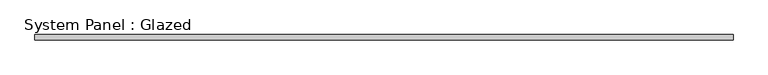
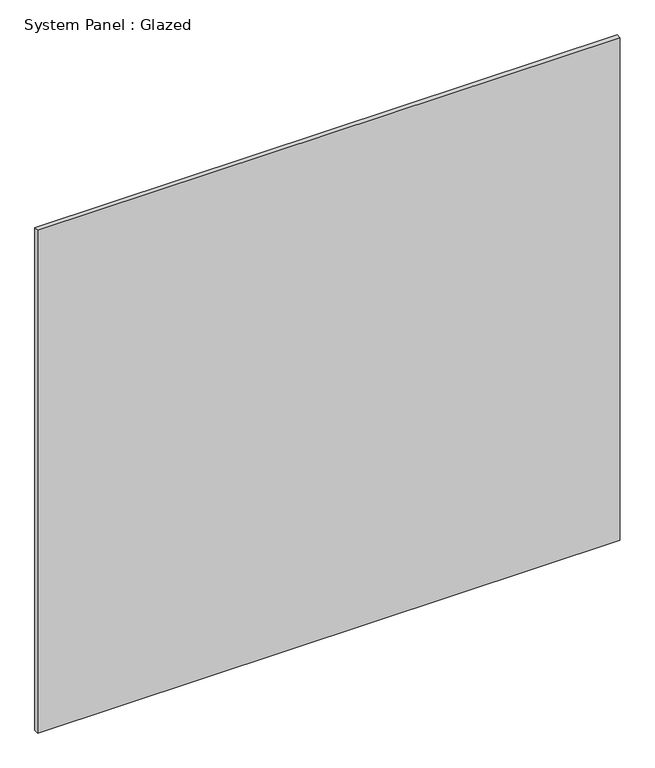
"""IFC4 building model written with IfcOpenShell, lengths in millimetres: plate geometry, System Panel : Glazed."""

import ifcopenshell
import ifcopenshell.guid

model = None  # the IFC model being written
_history = None  # IfcOwnerHistory: only IFC2X3 demands one
_inside = {}  # id of a spatial element -> (the spatial element, [elements in it])
_under = {}  # id of a project, library or spatial element -> (it, [spatial elements below it])
_declared = {}  # id of a project -> (the project, [libraries it declares])
_typed = {}  # id of a type object -> (the type object, [elements of that type])
_made_of = {}  # id of a material, layer set ... -> (it, [elements and type objects made of it])


def new_model(schema):
    """Start an empty IFC model of exactly this schema.

    Asked for "IFC4X3", IfcOpenShell would pick the latest addendum, in which some entities
    have other attributes; the version numbers below select the first issue.
    IFC2X3 requires an IfcOwnerHistory on every rooted entity: one is made here for all.
    """
    global model, _history
    if schema == "IFC4X3":
        model = ifcopenshell.file(schema_version=(4, 3, 0, 0))
    else:
        model = ifcopenshell.file(schema=schema)
    _inside.clear()
    _under.clear()
    _declared.clear()
    _typed.clear()
    _made_of.clear()
    _history = None
    if model.schema == "IFC2X3":
        org = make("IfcOrganization", Name="unknown")
        user = make(
            "IfcPersonAndOrganization",
            ThePerson=make("IfcPerson", FamilyName="unknown"),
            TheOrganization=org,
        )
        app = make(
            "IfcApplication",
            ApplicationDeveloper=org,
            Version="unknown",
            ApplicationFullName="unknown",
            ApplicationIdentifier="unknown",
        )
        _history = make(
            "IfcOwnerHistory",
            OwningUser=user,
            OwningApplication=app,
            ChangeAction="ADDED",
            CreationDate=0,
        )
    return model


def make(cls, **values):
    """One entity of the class cls with the attributes given. An attribute that is None is left unset."""
    return model.create_entity(
        cls, **{name: value for name, value in values.items() if value is not None}
    )


def rooted(cls, **values):
    """An entity with a GlobalId (a new one), such as an element, a storey or a relation."""
    return make(cls, GlobalId=ifcopenshell.guid.new(), OwnerHistory=_history, **values)


def si_unit(unit_type, name, prefix=None):
    """IfcSIUnit, for example si_unit("LENGTHUNIT", "METRE", prefix="MILLI")."""
    return make("IfcSIUnit", UnitType=unit_type, Prefix=prefix, Name=name)


def assignment(units):
    """IfcUnitAssignment: the units of a project."""
    return None if units is None else make("IfcUnitAssignment", Units=units)


def point(xyz):
    """IfcCartesianPoint."""
    return None if xyz is None else make("IfcCartesianPoint", Coordinates=xyz)


def direction(xyz):
    """IfcDirection."""
    return None if xyz is None else make("IfcDirection", DirectionRatios=xyz)


def frame(location, z_axis=None, x_axis=None):
    """IfcAxis2Placement3D, a coordinate frame: its origin and axes. An axis left out is left unset."""
    return make(
        "IfcAxis2Placement3D",
        Location=point(location),
        Axis=direction(z_axis),
        RefDirection=direction(x_axis),
    )


def origin():
    """The frame at (0, 0, 0) with its axes left unset."""
    return frame((0.0, 0.0, 0.0))


def origin_with_axes():
    """The frame at (0, 0, 0) with the z axis (0, 0, 1) and the x axis (1, 0, 0) written out."""
    return frame((0.0, 0.0, 0.0), z_axis=(0.0, 0.0, 1.0), x_axis=(1.0, 0.0, 0.0))


def place(relative_to, where):
    """IfcLocalPlacement: puts the frame where relative to a parent placement (None: the world)."""
    return make(
        "IfcLocalPlacement", PlacementRelTo=relative_to, RelativePlacement=where
    )


def context(
    kind, dimensions, precision=None, world=None, true_north=None, identifier=None
):
    """IfcGeometricRepresentationContext, for example the 3D "Model" context."""
    return make(
        "IfcGeometricRepresentationContext",
        ContextIdentifier=identifier,
        ContextType=kind,
        CoordinateSpaceDimension=dimensions,
        Precision=precision,
        WorldCoordinateSystem=world,
        TrueNorth=true_north,
    )


def project(units=None, contexts=None):
    """IfcProject with its units and contexts."""
    return rooted(
        "IfcProject",
        Name="project",
        RepresentationContexts=contexts,
        UnitsInContext=assignment(units),
    )


def spatial(cls, under=None, at=None, **own):
    """A site, building, storey or space (cls), placed at a placement, below another one or the project."""
    s = rooted(cls, ObjectPlacement=at, **own)
    if under is not None:
        _under.setdefault(under.id(), (under, []))[1].append(s)
    return s


def polyline(points):
    """IfcPolyline through the points."""
    return make("IfcPolyline", Points=[point(p) for p in points])


def outline(outer, holes=None, kind="AREA"):
    """IfcArbitraryClosedProfileDef: a profile drawn as a closed curve; with holes, ...WithVoids."""
    if holes is None:
        return make("IfcArbitraryClosedProfileDef", ProfileType=kind, OuterCurve=outer)
    return make(
        "IfcArbitraryProfileDefWithVoids",
        ProfileType=kind,
        OuterCurve=outer,
        InnerCurves=holes,
    )


def extrude(swept, where, along, depth):
    """IfcExtrudedAreaSolid: the profile swept, set in the frame where, extruded along a direction by depth."""
    return make(
        "IfcExtrudedAreaSolid",
        SweptArea=swept,
        Position=where,
        ExtrudedDirection=direction(along),
        Depth=depth,
    )


def shape(context_of_items, identifier, shape_type, items):
    """IfcShapeRepresentation: the items that make up one representation, for example the "Body"."""
    return make(
        "IfcShapeRepresentation",
        ContextOfItems=context_of_items,
        RepresentationIdentifier=identifier,
        RepresentationType=shape_type,
        Items=items,
    )


def source(mapping_origin, context_of_items, identifier, shape_type, items):
    """IfcRepresentationMap: a shape defined once, which mapped items show again and again."""
    return make(
        "IfcRepresentationMap",
        MappingOrigin=mapping_origin,
        MappedRepresentation=shape(context_of_items, identifier, shape_type, items),
    )


def transform(
    local_origin,
    x_axis=None,
    y_axis=None,
    z_axis=None,
    scale=None,
    scale2=None,
    scale3=None,
    uniform=True,
):
    """IfcCartesianTransformationOperator3D, or its non-uniform kind. x_axis, y_axis, z_axis: its Axis1, 2, 3."""
    if uniform:
        return make(
            "IfcCartesianTransformationOperator3D",
            Axis1=direction(x_axis),
            Axis2=direction(y_axis),
            LocalOrigin=point(local_origin),
            Scale=scale,
            Axis3=direction(z_axis),
        )
    return make(
        "IfcCartesianTransformationOperator3DnonUniform",
        Axis1=direction(x_axis),
        Axis2=direction(y_axis),
        LocalOrigin=point(local_origin),
        Scale=scale,
        Axis3=direction(z_axis),
        Scale2=scale2,
        Scale3=scale3,
    )


def mapped(mapping_source, mapping_target):
    """IfcMappedItem: shows the shape of a source again, moved by a transform."""
    return make(
        "IfcMappedItem", MappingSource=mapping_source, MappingTarget=mapping_target
    )


def made_of(thing, what):
    """Note that an element or type object is made of a material, layer set ...; save() writes the relation."""
    if what is not None:
        _made_of.setdefault(what.id(), (what, []))[1].append(thing)
    return thing


def element(
    cls,
    number,
    at=None,
    inside=None,
    cuts=None,
    type_object=None,
    material=None,
    context=None,
    identifier="Body",
    shape_type=None,
    held_by="IfcProductDefinitionShape",
    body=None,
    shapes=None,
    **own,
):
    """One element of the class cls, such as IfcWall. Its Tag is "e" and its number.

    at: its placement. inside: the storey or other place that contains it. cuts: it is an
    opening in that element (IfcRelVoidsElement). A single representation is given by context,
    identifier, shape_type and body (its items); several are given by shapes. held_by: the class
    of the entity that holds the representations. save() writes the other relations.
    """
    e = rooted(cls, Tag="e%d" % number, ObjectPlacement=at, **own)
    if body is not None:
        shapes = [shape(context, identifier, shape_type, body)]
    if shapes is not None:
        e.Representation = make(held_by, Representations=shapes)
    if inside is not None:
        _inside.setdefault(inside.id(), (inside, []))[1].append(e)
    if cuts is not None:
        rooted(
            "IfcRelVoidsElement", RelatingBuildingElement=cuts, RelatedOpeningElement=e
        )
    if type_object is not None:
        _typed.setdefault(type_object.id(), (type_object, []))[1].append(e)
    return made_of(e, material)


def aggregate(whole, parts):
    """IfcRelAggregates: a whole, such as a stair, and the parts it consists of."""
    return rooted("IfcRelAggregates", RelatingObject=whole, RelatedObjects=parts)


def save(model, path):
    """Write the relations noted so far, then the file.

    IfcRelAggregates (storeys below a building ...), IfcRelContainedInSpatialStructure (elements
    in a storey), IfcRelDefinesByType, IfcRelAssociatesMaterial and IfcRelDeclares: one each for
    every whole, place, type object, material and project.
    """
    for whole, parts in _under.values():
        aggregate(whole, parts)
    for where, things in _inside.values():
        rooted(
            "IfcRelContainedInSpatialStructure",
            RelatedElements=things,
            RelatingStructure=where,
        )
    for kind, things in _typed.values():
        rooted("IfcRelDefinesByType", RelatedObjects=things, RelatingType=kind)
    for what, things in _made_of.values():
        rooted("IfcRelAssociatesMaterial", RelatedObjects=things, RelatingMaterial=what)
    for by, libraries in _declared.values():
        rooted("IfcRelDeclares", RelatingContext=by, RelatedDefinitions=libraries)
    model.write(path)


def system_panel_glazed_26911bd7(model_context):
    return source(origin(), model_context, "Body", "SweptSolid", [
        extrude(outline(polyline([(1636.7125, -44.45), (-1636.7125, -44.45), (-1636.7125, -19.05), (1636.7125, -19.05), (1636.7125, -44.45)])), origin_with_axes(), (0.0, 0.0, 1.0), 2984.5),
    ])


if __name__ == "__main__":
    model = new_model("IFC4")
    model_context = context("Model", 3, world=origin())
    ifc_project = project(units=[si_unit("LENGTHUNIT", "METRE", prefix="MILLI")], contexts=[model_context])
    site = spatial("IfcSite", under=ifc_project)
    building = spatial("IfcBuilding", under=site)
    placement = place(None, origin())
    system_panel_glazed_shape = system_panel_glazed_26911bd7(model_context)
    element("IfcPlate", 1, ObjectType="System Panel : Glazed", at=placement, inside=building, context=model_context, shape_type="MappedRepresentation", body=[
        mapped(system_panel_glazed_shape, transform((0.0, 0.0, 0.0), x_axis=(1.0, 0.0, 0.0), y_axis=(0.0, 1.0, 0.0), z_axis=(0.0, 0.0, 1.0))),
    ])
    save(model, "model.ifc")
